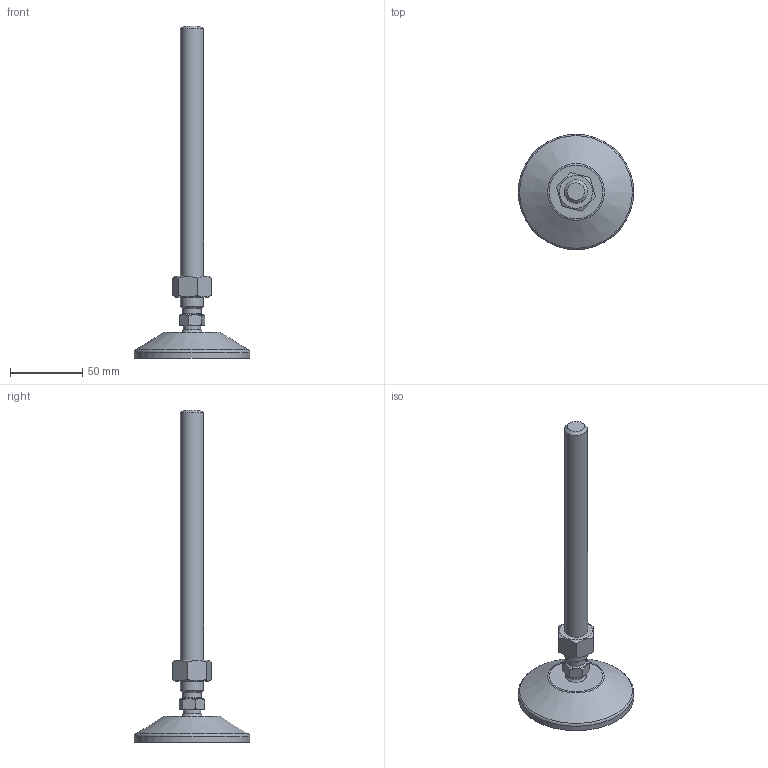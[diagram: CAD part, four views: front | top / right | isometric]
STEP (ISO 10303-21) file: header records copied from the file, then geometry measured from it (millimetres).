
FILE_DESCRIPTION(('STEP AP203'), '1');
FILE_NAME('栖闉罻', '', ('UNSPECIFIED'), ('UNSPECIFIED'), 'C3D Converter', 'C3D Toolkit', '');
FILE_SCHEMA(('CONFIG_CONTROL_DESIGN'));
Length unit declared in the file: millimetre
Products named in the file (4): A00020.116200; A00015.1080
Assembly tree (3 placements, depth 3):
  (unnamed)
    A00020.116200
      (unnamed)
    A00015.1080
Bounding box: 80 x 80 x 230 mm (x, y, z)
Volume: 84122.4 mm3; surface area: 30373.3 mm2
Topology: 3 solids, 3 shells, 189 faces, 478 edges, 316 vertices
Faces by surface type: plane 95, cylinder 58, cone 20, torus 14, sphere 2
Full cylindrical faces by diameter (mm): 4 x8, 12 x1, 13 x1, 13.835 x1, 14.3 x1, 15 x2, 15.5 x1, 16 x1, 69.3 x1, 80 x1
Entity records: 9576 total; most frequent: CARTESIAN_POINT 3398, DIRECTION 944, ORIENTED_EDGE 884, EDGE_CURVE 442, AXIS2_PLACEMENT_3D 378, VERTEX_POINT 315, EDGE_LOOP 247, FACE_BOUND 207
